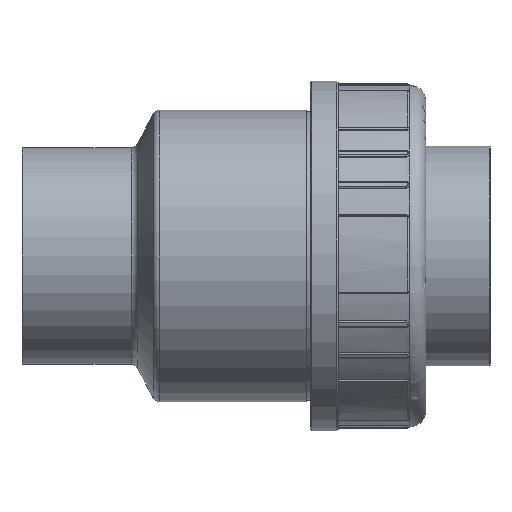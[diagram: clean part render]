
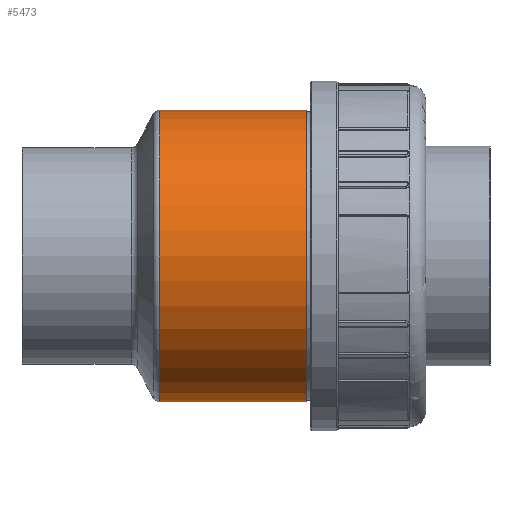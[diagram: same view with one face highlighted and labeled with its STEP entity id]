
A CAD part, left-side view. The second image highlights one B-rep face of the part: STEP entity #5473.
In plain terms, the highlighted cylindrical face has radius 87.5 mm (diameter 175 mm), a full revolution.
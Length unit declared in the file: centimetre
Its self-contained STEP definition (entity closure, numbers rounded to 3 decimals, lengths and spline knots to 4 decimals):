
#229=FACE_BOUND('',#1237,.T.);
#230=FACE_BOUND('',#1238,.T.);
#902=FACE_OUTER_BOUND('',#1236,.T.);
#1236=EDGE_LOOP('',(#3695));
#1237=EDGE_LOOP('',(#3696));
#1238=EDGE_LOOP('',(#3697));
#1554=B_SPLINE_CURVE_WITH_KNOTS('',3,(#8424,#8425,#8426,#8427,#8428,#8429,
#8430,#8431,#8432,#8433,#8434,#8435,#8436,#8437,#8438,#8439,#8440,#8441),
 .UNSPECIFIED.,.T.,.F.,(4,1,1,1,1,1,1,1,1,1,1,1,1,1,1,4),(-14.7908,
-13.7343,-12.6778,-11.6213,-10.5648,
-9.5084,-8.4519,-7.7476,-7.0432,
-6.3389,-4.9303,-4.2259,-3.1695,
-2.113,-1.0565,0.),.UNSPECIFIED.);
#1816=CIRCLE('',#5885,8.75);
#1819=CIRCLE('',#5890,8.75);
#2152=VERTEX_POINT('',#8413);
#2155=VERTEX_POINT('',#8421);
#2156=VERTEX_POINT('',#8423);
#2730=EDGE_CURVE('',#2152,#2152,#1816,.T.);
#2733=EDGE_CURVE('',#2155,#2155,#1819,.T.);
#2734=EDGE_CURVE('',#2156,#2156,#1554,.T.);
#3695=ORIENTED_EDGE('',*,*,#2733,.T.);
#3696=ORIENTED_EDGE('',*,*,#2734,.F.);
#3697=ORIENTED_EDGE('',*,*,#2730,.F.);
#4975=CYLINDRICAL_SURFACE('',#5889,8.75);
#5473=ADVANCED_FACE('',(#902,#229,#230),#4975,.T.);
#5885=AXIS2_PLACEMENT_3D('',#8414,#6653,#6654);
#5889=AXIS2_PLACEMENT_3D('',#8420,#6661,#6662);
#5890=AXIS2_PLACEMENT_3D('',#8422,#6663,#6664);
#6653=DIRECTION('center_axis',(0.,1.,0.));
#6654=DIRECTION('ref_axis',(1.,0.,0.));
#6661=DIRECTION('center_axis',(0.,1.,0.));
#6662=DIRECTION('ref_axis',(-1.,0.,0.));
#6663=DIRECTION('center_axis',(0.,1.,0.));
#6664=DIRECTION('ref_axis',(-1.,0.,0.));
#8413=CARTESIAN_POINT('',(-8.75,5.66,0.));
#8414=CARTESIAN_POINT('Origin',(0.,5.66,0.));
#8420=CARTESIAN_POINT('Origin',(0.,-0.8,
0.));
#8421=CARTESIAN_POINT('',(8.75,-3.16,0.));
#8422=CARTESIAN_POINT('Origin',(0.,-3.16,0.));
#8423=CARTESIAN_POINT('',(8.3966,0.,2.4616));
#8424=CARTESIAN_POINT('Ctrl Pts',(8.3965,0.,
2.4615));
#8425=CARTESIAN_POINT('Ctrl Pts',(8.3965,-0.3711,2.4615));
#8426=CARTESIAN_POINT('Ctrl Pts',(8.4493,-1.1132,2.2906));
#8427=CARTESIAN_POINT('Ctrl Pts',(8.6202,-1.9942,1.5885));
#8428=CARTESIAN_POINT('Ctrl Pts',(8.7553,-2.49,0.571));
#8429=CARTESIAN_POINT('Ctrl Pts',(8.7555,-2.49,-0.571));
#8430=CARTESIAN_POINT('Ctrl Pts',(8.6199,-1.9943,-1.5885));
#8431=CARTESIAN_POINT('Ctrl Pts',(8.4686,-1.2107,-2.2123));
#8432=CARTESIAN_POINT('Ctrl Pts',(8.3942,-0.3758,-2.4705));
#8433=CARTESIAN_POINT('Ctrl Pts',(8.3939,0.3756,-2.4703));
#8434=CARTESIAN_POINT('Ctrl Pts',(8.4797,1.3307,-2.1762));
#8435=CARTESIAN_POINT('Ctrl Pts',(8.643,2.0777,-1.4837));
#8436=CARTESIAN_POINT('Ctrl Pts',(8.7553,2.4897,-0.4435));
#8437=CARTESIAN_POINT('Ctrl Pts',(8.7554,2.4903,0.5706));
#8438=CARTESIAN_POINT('Ctrl Pts',(8.6201,1.9939,1.5885));
#8439=CARTESIAN_POINT('Ctrl Pts',(8.4494,1.1133,2.2905));
#8440=CARTESIAN_POINT('Ctrl Pts',(8.3965,0.3711,2.4615));
#8441=CARTESIAN_POINT('Ctrl Pts',(8.3965,0.,
2.4615));
